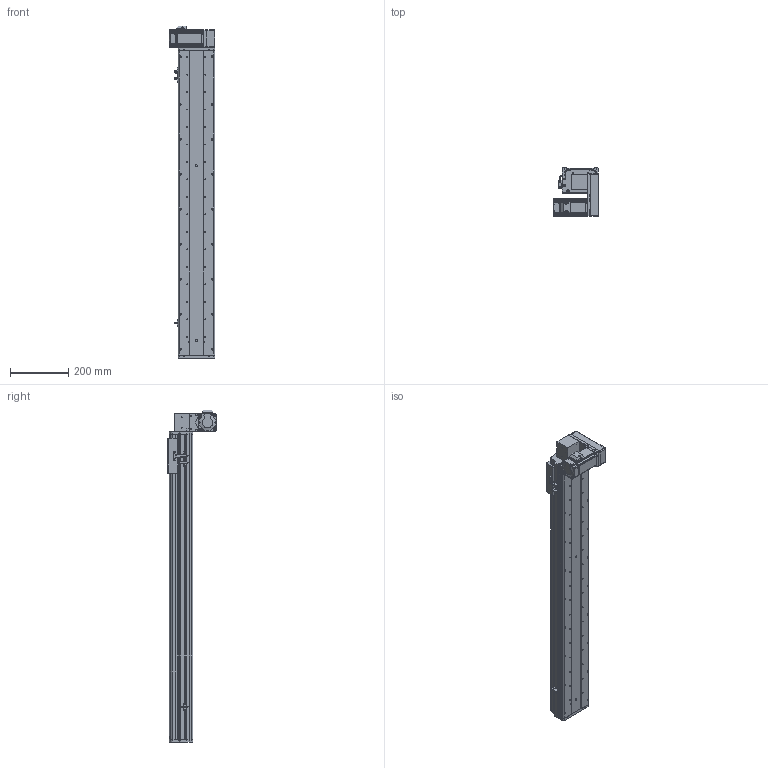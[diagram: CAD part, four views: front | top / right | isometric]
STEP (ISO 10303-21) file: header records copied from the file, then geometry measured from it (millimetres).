
FILE_DESCRIPTION (( 'STEP AP214' ), '1' );
FILE_NAME ('KSD125B-S850-MLD-CM.STEP', '2017-10-21T02:26:08', ( '微软用户' ), ( '微软中国' ), 'SwSTEP 2.0', 'SolidWorks 2014', '' );
FILE_SCHEMA (( 'AUTOMOTIVE_DESIGN' ));
Length unit declared in the file: millimetre
Products named in the file (17): KSD125B-S850-MLD-CM; 悵誘欶奻狟殏; 100宽马达安装板连板上下折丝杆同步带; HTPA30S3M150_A_H6_a佪裝蚚; HTPA30S3M150_A_H6_a萇儂蚚; 100宽马达安装板同步带左; KSD125模组850行程同步带-防尘盖; 125模组850行程同步带-底板; MHMD042G1CA_2_03; KSD125模组同步带-防撞垫2; 覜茼え68遵圉猾敕; U倰嫖萇假蚾璃; U倰嫖萇EEㄜSX672; KSD125模组同步带-防撞垫1; 前端板-125宽模组同步带; 125模组同步带-尾端板1; KSD125模组同步带-滑动座1
Assembly tree (20 placements, depth 2):
  KSD125B-S850-MLD-CM
    KSD125模组同步带-滑动座1
    125模组同步带-尾端板1
    前端板-125宽模组同步带
    KSD125模组同步带-防撞垫1
    U倰嫖萇EEㄜSX672  x3
    U倰嫖萇假蚾璃  x3
    覜茼え68遵圉猾敕
    KSD125模组同步带-防撞垫2
    MHMD042G1CA_2_03
    125模组850行程同步带-底板
    KSD125模组850行程同步带-防尘盖
    100宽马达安装板同步带左
    HTPA30S3M150_A_H6_a萇儂蚚
    HTPA30S3M150_A_H6_a佪裝蚚
    100宽马达安装板连板上下折丝杆同步带
    悵誘欶奻狟殏
Bounding box: 155 x 166.5 x 1139 mm (x, y, z)
Volume: 3525332.7 mm3; surface area: 1194358.6 mm2
Topology: 19 solids, 22 shells, 2293 faces, 6643 edges, 4390 vertices
Faces by surface type: cylinder 1440, plane 726, cone 105, bspline 22
Entity records: 81593 total; most frequent: CARTESIAN_POINT 16101, DIRECTION 12684, ORIENTED_EDGE 11806, EDGE_CURVE 5981, AXIS2_PLACEMENT_3D 4905, VERTEX_POINT 3982, VECTOR 2874, LINE 2874
